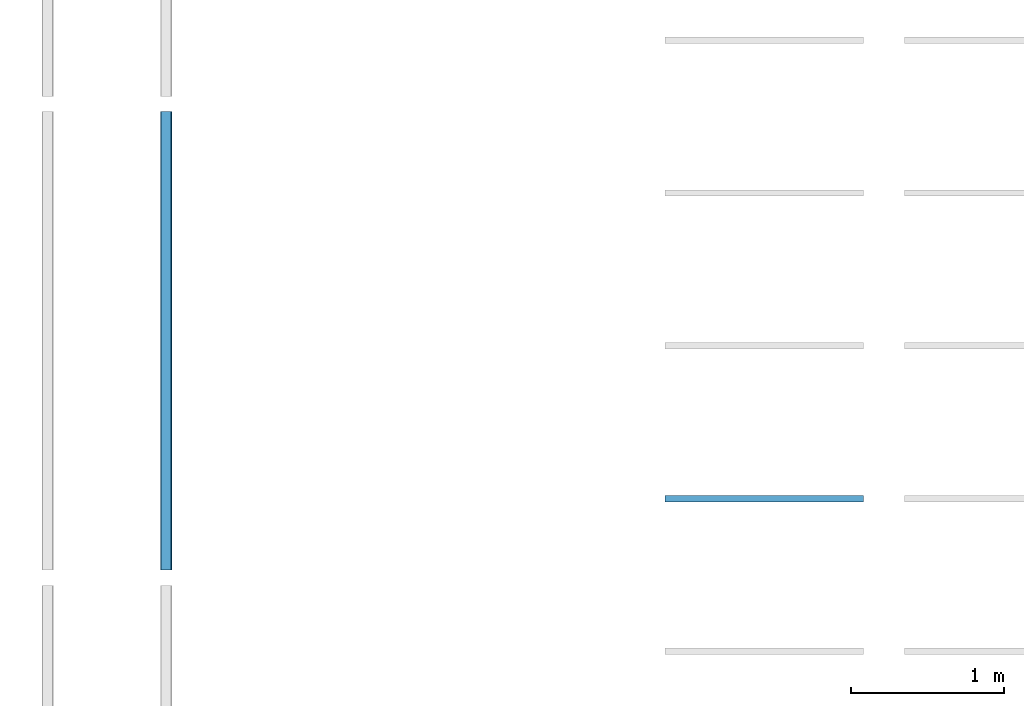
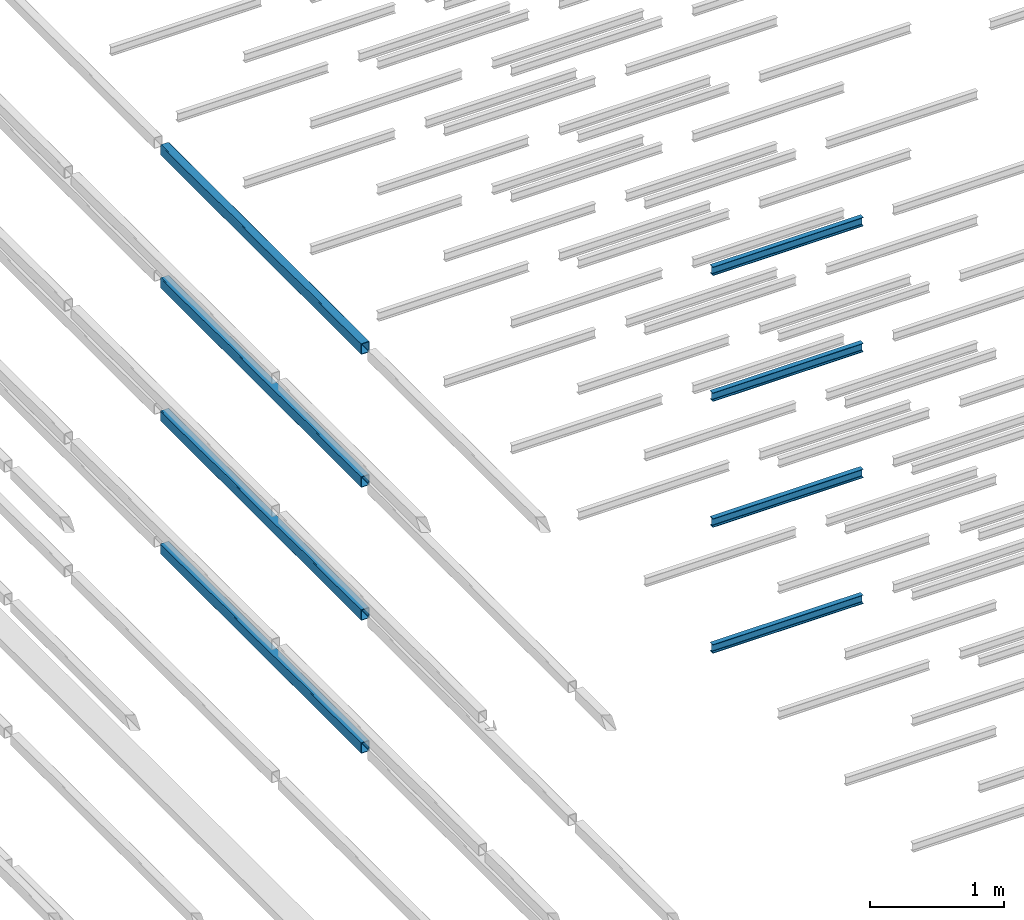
# One storey, part 89 of 290: 8 beams.
"""IFC2X3 building model written with IfcOpenShell, lengths in metres."""

from ifc_helpers import new_model, entity, si_unit, converted_unit, derived_unit, direction, frame, frame_2d, origin, place, context, subcontext, project, spatial, polyline, circle_curve, parameter, trimmed, segment, composite_curve, outline, extrude, material, type_object, element, save


model = new_model("IFC2X3")

# Units and contexts
model_context = context("Model", 3, precision=1e-05, world=origin(), true_north=direction((6.12303176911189e-17, 1.0)))
body_context = subcontext(model_context, "Body", "Model", "MODEL_VIEW")
ifc_project = project(units=[si_unit("LENGTHUNIT", "METRE"), si_unit("AREAUNIT", "SQUARE_METRE"), si_unit("VOLUMEUNIT", "CUBIC_METRE"), converted_unit("PLANEANGLEUNIT", "DEGREE", entity("IfcRatioMeasure", 0.0174532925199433), si_unit("PLANEANGLEUNIT", "RADIAN"), dimensions=[0, 0, 0, 0, 0, 0, 0]), si_unit("MASSUNIT", "GRAM", prefix="KILO"), derived_unit("MASSDENSITYUNIT", [(si_unit("MASSUNIT", "GRAM", prefix="KILO"), 1), (si_unit("LENGTHUNIT", "METRE"), -3)]), derived_unit("MOMENTOFINERTIAUNIT", [(si_unit("LENGTHUNIT", "METRE"), 4)]), si_unit("TIMEUNIT", "SECOND"), si_unit("FREQUENCYUNIT", "HERTZ"), si_unit("THERMODYNAMICTEMPERATUREUNIT", "DEGREE_CELSIUS"), derived_unit("THERMALTRANSMITTANCEUNIT", [(si_unit("MASSUNIT", "GRAM", prefix="KILO"), 1), (si_unit("THERMODYNAMICTEMPERATUREUNIT", "KELVIN"), -1), (si_unit("TIMEUNIT", "SECOND"), -3)]), derived_unit("VOLUMETRICFLOWRATEUNIT", [(si_unit("LENGTHUNIT", "METRE"), 3), (si_unit("TIMEUNIT", "SECOND"), -1)]), si_unit("ELECTRICCURRENTUNIT", "AMPERE"), si_unit("ELECTRICVOLTAGEUNIT", "VOLT"), si_unit("POWERUNIT", "WATT"), si_unit("FORCEUNIT", "NEWTON", prefix="KILO"), si_unit("ILLUMINANCEUNIT", "LUX"), si_unit("LUMINOUSFLUXUNIT", "LUMEN"), si_unit("LUMINOUSINTENSITYUNIT", "CANDELA"), derived_unit("USERDEFINED", [(si_unit("MASSUNIT", "GRAM", prefix="KILO"), -1), (si_unit("LENGTHUNIT", "METRE"), -2), (si_unit("TIMEUNIT", "SECOND"), 3), (si_unit("LUMINOUSFLUXUNIT", "LUMEN"), 1)]), derived_unit("LINEARVELOCITYUNIT", [(si_unit("LENGTHUNIT", "METRE"), 1), (si_unit("TIMEUNIT", "SECOND"), -1)]), si_unit("PRESSUREUNIT", "PASCAL"), derived_unit("USERDEFINED", [(si_unit("LENGTHUNIT", "METRE"), -2), (si_unit("MASSUNIT", "GRAM", prefix="KILO"), 1), (si_unit("TIMEUNIT", "SECOND"), -2)]), derived_unit("LINEARFORCEUNIT", [(si_unit("MASSUNIT", "GRAM", prefix="KILO"), 1), (si_unit("LENGTHUNIT", "METRE"), 1), (si_unit("TIMEUNIT", "SECOND"), -2), (si_unit("LENGTHUNIT", "METRE"), -1)]), derived_unit("PLANARFORCEUNIT", [(si_unit("MASSUNIT", "GRAM", prefix="KILO"), 1), (si_unit("LENGTHUNIT", "METRE"), 1), (si_unit("TIMEUNIT", "SECOND"), -2), (si_unit("LENGTHUNIT", "METRE"), -2)])], contexts=[model_context])

# Site, building, storey
site_placement = place(None, origin())
site = spatial("IfcSite", under=ifc_project, at=site_placement, Name="Default", CompositionType="ELEMENT")
building_placement = place(site_placement, origin())
building = spatial("IfcBuilding", under=site, at=building_placement, CompositionType="ELEMENT")
storey_placement = place(building_placement, frame((0.0, 0.0, 4.0)))
storey = spatial("IfcBuildingStorey", under=building, at=storey_placement, Name="01_OG", CompositionType="ELEMENT", Elevation=4.0)

# Beams
ifc_material_1 = material(Name="Metall - Baustahl S235 blau")
beam_type_1 = type_object("IfcBeamType", Name="RHS Träger (EN 10219-2):RHS 100 x 75 x 5", PredefinedType="NOTDEFINED")
beam_1_placement = place(storey_placement, frame((-175.305111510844, 39.5480889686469, -1.2), z_axis=(0.0, 0.0, 1.0), x_axis=(0.0, 1.0, 0.0)))
element("IfcBeam", 1, at=beam_1_placement, inside=storey, type_object=beam_type_1, material=ifc_material_1, Name="RHS Träger (EN 10219-2):RHS 100 x 75 x 5", ObjectType="RHS Träger (EN 10219-2):RHS 100 x 75 x 5", context=body_context, shape_type="SweptSolid", body=[
    extrude(outline(composite_curve([segment(trimmed(circle_curve(frame_2d((-0.0274999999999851, -0.0400000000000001), x_axis=(1.0, 0.0)), 0.01), [parameter(180.0)], [parameter(270.0)], True, "PARAMETER"), True, "CONTINUOUS"), segment(polyline([(-0.0274999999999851, -0.05), (0.0274999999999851, -0.05)]), True, "CONTINUOUS"), segment(trimmed(circle_curve(frame_2d((0.0274999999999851, -0.0400000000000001), x_axis=(1.0, 0.0)), 0.01), [parameter(270.0)], [parameter(5.08888749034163e-14)], True, "PARAMETER"), True, "CONTINUOUS"), segment(polyline([(0.0375000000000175, -0.0400000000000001), (0.0375000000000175, 0.0400000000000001)]), True, "CONTINUOUS"), segment(trimmed(circle_curve(frame_2d((0.0274999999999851, 0.0400000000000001), x_axis=(1.0, 0.0)), 0.01), [parameter(360.0)], [parameter(89.9999999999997)], True, "PARAMETER"), True, "CONTINUOUS"), segment(polyline([(0.0274999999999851, 0.05), (-0.0274999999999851, 0.05)]), True, "CONTINUOUS"), segment(trimmed(circle_curve(frame_2d((-0.0274999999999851, 0.0400000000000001), x_axis=(1.0, 0.0)), 0.01), [parameter(90.0000000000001)], [parameter(180.0)], True, "PARAMETER"), True, "CONTINUOUS"), segment(polyline([(-0.0374999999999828, 0.0400000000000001), (-0.0374999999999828, -0.0400000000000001)]), True, "CONTINUOUS")], self_intersect=False), holes=[composite_curve([segment(polyline([(0.0274999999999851, -0.0450000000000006), (-0.0274999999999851, -0.0450000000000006)]), True, "CONTINUOUS"), segment(trimmed(circle_curve(frame_2d((-0.0274999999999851, -0.0400000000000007), x_axis=(1.0, 0.0)), 0.005), [parameter(180.0)], [parameter(270.0)], True, "PARAMETER"), False, "CONTINUOUS"), segment(polyline([(-0.0325000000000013, -0.0400000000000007), (-0.0325000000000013, 0.039999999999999)]), True, "CONTINUOUS"), segment(trimmed(circle_curve(frame_2d((-0.0274999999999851, 0.039999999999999), x_axis=(1.0, 0.0)), 0.005), [parameter(90.0000000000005)], [parameter(180.0)], True, "PARAMETER"), False, "CONTINUOUS"), segment(polyline([(-0.0274999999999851, 0.044999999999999), (0.0274999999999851, 0.044999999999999)]), True, "CONTINUOUS"), segment(trimmed(circle_curve(frame_2d((0.0274999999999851, 0.039999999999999), x_axis=(1.0, 0.0)), 0.005), [parameter(0.0)], [parameter(90.0000000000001)], True, "PARAMETER"), False, "CONTINUOUS"), segment(polyline([(0.0325000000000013, 0.039999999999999), (0.0325000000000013, -0.0400000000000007)]), True, "CONTINUOUS"), segment(trimmed(circle_curve(frame_2d((0.0274999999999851, -0.0400000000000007), x_axis=(1.0, 0.0)), 0.005), [parameter(270.0)], [parameter(4.07110999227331e-13)], True, "PARAMETER"), False, "CONTINUOUS")], self_intersect=False)]), frame((9.99999999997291e-05, 0.0375000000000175, -0.0500000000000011), z_axis=(1.0, 0.0, 0.0), x_axis=(0.0, -1.0, 0.0)), (0.0, 0.0, 1.0), 2.99979999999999),
])
beam_2_placement = place(storey_placement, frame((-175.305111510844, 39.5480889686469, 0.0150000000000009), z_axis=(0.0, 0.0, 1.0), x_axis=(0.0, 1.0, 0.0)))
element("IfcBeam", 2, at=beam_2_placement, inside=storey, type_object=beam_type_1, material=ifc_material_1, Name="RHS Träger (EN 10219-2):RHS 100 x 75 x 5", ObjectType="RHS Träger (EN 10219-2):RHS 100 x 75 x 5", context=body_context, shape_type="SweptSolid", body=[
    extrude(outline(composite_curve([segment(trimmed(circle_curve(frame_2d((-0.0274999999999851, -0.0400000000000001), x_axis=(1.0, 0.0)), 0.01), [parameter(180.0)], [parameter(270.0)], True, "PARAMETER"), True, "CONTINUOUS"), segment(polyline([(-0.0274999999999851, -0.05), (0.0274999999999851, -0.05)]), True, "CONTINUOUS"), segment(trimmed(circle_curve(frame_2d((0.0274999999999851, -0.0400000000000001), x_axis=(1.0, 0.0)), 0.01), [parameter(270.0)], [parameter(5.08888749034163e-14)], True, "PARAMETER"), True, "CONTINUOUS"), segment(polyline([(0.0375000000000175, -0.0400000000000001), (0.0375000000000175, 0.0400000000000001)]), True, "CONTINUOUS"), segment(trimmed(circle_curve(frame_2d((0.0274999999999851, 0.0400000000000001), x_axis=(1.0, 0.0)), 0.01), [parameter(360.0)], [parameter(89.9999999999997)], True, "PARAMETER"), True, "CONTINUOUS"), segment(polyline([(0.0274999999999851, 0.05), (-0.0274999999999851, 0.05)]), True, "CONTINUOUS"), segment(trimmed(circle_curve(frame_2d((-0.0274999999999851, 0.0400000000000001), x_axis=(1.0, 0.0)), 0.01), [parameter(90.0000000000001)], [parameter(180.0)], True, "PARAMETER"), True, "CONTINUOUS"), segment(polyline([(-0.0374999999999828, 0.0400000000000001), (-0.0374999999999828, -0.0400000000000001)]), True, "CONTINUOUS")], self_intersect=False), holes=[composite_curve([segment(polyline([(0.0274999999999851, -0.0450000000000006), (-0.0274999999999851, -0.0450000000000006)]), True, "CONTINUOUS"), segment(trimmed(circle_curve(frame_2d((-0.0274999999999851, -0.0400000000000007), x_axis=(1.0, 0.0)), 0.005), [parameter(180.0)], [parameter(270.0)], True, "PARAMETER"), False, "CONTINUOUS"), segment(polyline([(-0.0325000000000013, -0.0400000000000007), (-0.0325000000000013, 0.039999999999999)]), True, "CONTINUOUS"), segment(trimmed(circle_curve(frame_2d((-0.0274999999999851, 0.039999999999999), x_axis=(1.0, 0.0)), 0.005), [parameter(90.0000000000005)], [parameter(180.0)], True, "PARAMETER"), False, "CONTINUOUS"), segment(polyline([(-0.0274999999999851, 0.044999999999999), (0.0274999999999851, 0.044999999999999)]), True, "CONTINUOUS"), segment(trimmed(circle_curve(frame_2d((0.0274999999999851, 0.039999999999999), x_axis=(1.0, 0.0)), 0.005), [parameter(0.0)], [parameter(90.0000000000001)], True, "PARAMETER"), False, "CONTINUOUS"), segment(polyline([(0.0325000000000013, 0.039999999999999), (0.0325000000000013, -0.0400000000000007)]), True, "CONTINUOUS"), segment(trimmed(circle_curve(frame_2d((0.0274999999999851, -0.0400000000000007), x_axis=(1.0, 0.0)), 0.005), [parameter(270.0)], [parameter(4.07110999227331e-13)], True, "PARAMETER"), False, "CONTINUOUS")], self_intersect=False)]), frame((9.99999999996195e-05, 0.0375000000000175, -0.0500000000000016), z_axis=(1.0, 0.0, 0.0), x_axis=(0.0, -1.0, 0.0)), (0.0, 0.0, 1.0), 2.99979999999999),
])
beam_3_placement = place(storey_placement, frame((-175.305111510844, 39.5480889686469, 1.23), z_axis=(0.0, 0.0, 1.0), x_axis=(0.0, 1.0, 0.0)))
element("IfcBeam", 3, at=beam_3_placement, inside=storey, type_object=beam_type_1, material=ifc_material_1, Name="RHS Träger (EN 10219-2):RHS 100 x 75 x 5", ObjectType="RHS Träger (EN 10219-2):RHS 100 x 75 x 5", context=body_context, shape_type="SweptSolid", body=[
    extrude(outline(composite_curve([segment(trimmed(circle_curve(frame_2d((-0.0274999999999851, -0.0399999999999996), x_axis=(1.0, 0.0)), 0.01), [parameter(180.0)], [parameter(270.0)], True, "PARAMETER"), True, "CONTINUOUS"), segment(polyline([(-0.0274999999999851, -0.0499999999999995), (0.0274999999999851, -0.0499999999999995)]), True, "CONTINUOUS"), segment(trimmed(circle_curve(frame_2d((0.0274999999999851, -0.0399999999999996), x_axis=(1.0, 0.0)), 0.01), [parameter(270.0)], [parameter(5.08888749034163e-14)], True, "PARAMETER"), True, "CONTINUOUS"), segment(polyline([(0.0375000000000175, -0.0399999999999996), (0.0375000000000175, 0.0399999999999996)]), True, "CONTINUOUS"), segment(trimmed(circle_curve(frame_2d((0.0274999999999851, 0.0399999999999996), x_axis=(1.0, 0.0)), 0.01), [parameter(360.0)], [parameter(89.9999999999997)], True, "PARAMETER"), True, "CONTINUOUS"), segment(polyline([(0.0274999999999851, 0.0500000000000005), (-0.0274999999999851, 0.0500000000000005)]), True, "CONTINUOUS"), segment(trimmed(circle_curve(frame_2d((-0.0274999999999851, 0.0399999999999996), x_axis=(1.0, 0.0)), 0.01), [parameter(90.0000000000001)], [parameter(180.0)], True, "PARAMETER"), True, "CONTINUOUS"), segment(polyline([(-0.0374999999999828, 0.0399999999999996), (-0.0374999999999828, -0.0399999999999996)]), True, "CONTINUOUS")], self_intersect=False), holes=[composite_curve([segment(polyline([(0.0274999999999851, -0.0450000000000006), (-0.0274999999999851, -0.0450000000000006)]), True, "CONTINUOUS"), segment(trimmed(circle_curve(frame_2d((-0.0274999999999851, -0.0400000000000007), x_axis=(1.0, 0.0)), 0.005), [parameter(180.0)], [parameter(270.0)], True, "PARAMETER"), False, "CONTINUOUS"), segment(polyline([(-0.0325000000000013, -0.0400000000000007), (-0.0325000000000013, 0.0399999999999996)]), True, "CONTINUOUS"), segment(trimmed(circle_curve(frame_2d((-0.0274999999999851, 0.0399999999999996), x_axis=(1.0, 0.0)), 0.005), [parameter(90.0000000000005)], [parameter(180.0)], True, "PARAMETER"), False, "CONTINUOUS"), segment(polyline([(-0.0274999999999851, 0.0449999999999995), (0.0274999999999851, 0.0449999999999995)]), True, "CONTINUOUS"), segment(trimmed(circle_curve(frame_2d((0.0274999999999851, 0.0399999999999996), x_axis=(1.0, 0.0)), 0.005), [parameter(0.0)], [parameter(90.0000000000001)], True, "PARAMETER"), False, "CONTINUOUS"), segment(polyline([(0.0325000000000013, 0.0399999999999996), (0.0325000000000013, -0.0400000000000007)]), True, "CONTINUOUS"), segment(trimmed(circle_curve(frame_2d((0.0274999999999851, -0.0400000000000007), x_axis=(1.0, 0.0)), 0.005), [parameter(270.0)], [parameter(4.07110999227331e-13)], True, "PARAMETER"), False, "CONTINUOUS")], self_intersect=False)]), frame((9.99999999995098e-05, 0.0375000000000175, -0.0500000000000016), z_axis=(1.0, 0.0, 0.0), x_axis=(0.0, -1.0, 0.0)), (0.0, 0.0, 1.0), 2.99979999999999),
])
beam_4_placement = place(storey_placement, frame((-175.305111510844, 39.5480889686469, 2.445), z_axis=(0.0, 0.0, 1.0), x_axis=(0.0, 1.0, 0.0)))
element("IfcBeam", 4, at=beam_4_placement, inside=storey, type_object=beam_type_1, material=ifc_material_1, Name="RHS Träger (EN 10219-2):RHS 100 x 75 x 5", ObjectType="RHS Träger (EN 10219-2):RHS 100 x 75 x 5", context=body_context, shape_type="SweptSolid", body=[
    extrude(outline(composite_curve([segment(trimmed(circle_curve(frame_2d((-0.0274999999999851, -0.0399999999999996), x_axis=(1.0, 0.0)), 0.01), [parameter(180.0)], [parameter(270.0)], True, "PARAMETER"), True, "CONTINUOUS"), segment(polyline([(-0.0274999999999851, -0.0499999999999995), (0.0274999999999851, -0.0499999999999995)]), True, "CONTINUOUS"), segment(trimmed(circle_curve(frame_2d((0.0274999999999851, -0.0399999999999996), x_axis=(1.0, 0.0)), 0.01), [parameter(270.0)], [parameter(5.08888749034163e-14)], True, "PARAMETER"), True, "CONTINUOUS"), segment(polyline([(0.0375000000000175, -0.0399999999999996), (0.0375000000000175, 0.0399999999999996)]), True, "CONTINUOUS"), segment(trimmed(circle_curve(frame_2d((0.0274999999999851, 0.0399999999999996), x_axis=(1.0, 0.0)), 0.01), [parameter(360.0)], [parameter(89.9999999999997)], True, "PARAMETER"), True, "CONTINUOUS"), segment(polyline([(0.0274999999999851, 0.0500000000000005), (-0.0274999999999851, 0.0500000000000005)]), True, "CONTINUOUS"), segment(trimmed(circle_curve(frame_2d((-0.0274999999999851, 0.0399999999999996), x_axis=(1.0, 0.0)), 0.01), [parameter(90.0000000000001)], [parameter(180.0)], True, "PARAMETER"), True, "CONTINUOUS"), segment(polyline([(-0.0374999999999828, 0.0399999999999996), (-0.0374999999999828, -0.0399999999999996)]), True, "CONTINUOUS")], self_intersect=False), holes=[composite_curve([segment(polyline([(0.0274999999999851, -0.0450000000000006), (-0.0274999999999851, -0.0450000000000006)]), True, "CONTINUOUS"), segment(trimmed(circle_curve(frame_2d((-0.0274999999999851, -0.0400000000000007), x_axis=(1.0, 0.0)), 0.005), [parameter(180.0)], [parameter(270.0)], True, "PARAMETER"), False, "CONTINUOUS"), segment(polyline([(-0.0325000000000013, -0.0400000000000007), (-0.0325000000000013, 0.0399999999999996)]), True, "CONTINUOUS"), segment(trimmed(circle_curve(frame_2d((-0.0274999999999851, 0.0399999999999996), x_axis=(1.0, 0.0)), 0.005), [parameter(90.0000000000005)], [parameter(180.0)], True, "PARAMETER"), False, "CONTINUOUS"), segment(polyline([(-0.0274999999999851, 0.0449999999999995), (0.0274999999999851, 0.0449999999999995)]), True, "CONTINUOUS"), segment(trimmed(circle_curve(frame_2d((0.0274999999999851, 0.0399999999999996), x_axis=(1.0, 0.0)), 0.005), [parameter(0.0)], [parameter(90.0000000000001)], True, "PARAMETER"), False, "CONTINUOUS"), segment(polyline([(0.0325000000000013, 0.0399999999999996), (0.0325000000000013, -0.0400000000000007)]), True, "CONTINUOUS"), segment(trimmed(circle_curve(frame_2d((0.0274999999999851, -0.0400000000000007), x_axis=(1.0, 0.0)), 0.005), [parameter(270.0)], [parameter(4.07110999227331e-13)], True, "PARAMETER"), False, "CONTINUOUS")], self_intersect=False)]), frame((9.99999999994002e-05, 0.0375000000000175, -0.0500000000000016), z_axis=(1.0, 0.0, 0.0), x_axis=(0.0, -1.0, 0.0)), (0.0, 0.0, 1.0), 2.99979999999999),
])
ifc_material_2 = material(Name="Metall - Baustahl S235")
beam_type_2 = type_object("IfcBeamType", Name="IPN Träger:IPN 80", PredefinedType="NOTDEFINED")
beam_5_placement = place(storey_placement, frame((-170.780111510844, 40.036588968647, -1.73), z_axis=(0.0, 0.0, 1.0), x_axis=(-1.0, 0.0, 0.0)))
element("IfcBeam", 5, at=beam_5_placement, inside=storey, type_object=beam_type_2, material=ifc_material_2, Name="IPN Träger:IPN 80", ObjectType="IPN Träger:IPN 80", context=body_context, shape_type="SweptSolid", body=[
    extrude(outline(composite_curve([segment(polyline([(0.0375704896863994, -0.0210000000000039), (0.0399999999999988, -0.0210000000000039)]), True, "CONTINUOUS"), segment(polyline([(0.0399999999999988, -0.0210000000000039), (0.0399999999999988, 0.0209999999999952)]), True, "CONTINUOUS"), segment(polyline([(0.0399999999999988, 0.0209999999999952), (0.0375704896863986, 0.0209999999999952)]), True, "CONTINUOUS"), segment(trimmed(circle_curve(frame_2d((0.0375704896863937, 0.0187000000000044), x_axis=(0.0, 1.0)), 0.0022999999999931), [parameter(0.0)], [parameter(82.030000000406)], True, "PARAMETER"), True, "CONTINUOUS"), segment(polyline([(0.0352927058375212, 0.019018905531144), (0.0333732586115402, 0.00530924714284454)]), True, "CONTINUOUS"), segment(trimmed(circle_curve(frame_2d((0.0295109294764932, 0.00584999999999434), x_axis=(0.99034080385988, -0.138654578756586)), 0.0038999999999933), [parameter(277.96999999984)], [parameter(0.0)], True, "PARAMETER"), False, "CONTINUOUS"), segment(polyline([(0.0295109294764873, 0.00194999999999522), (-0.0295109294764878, 0.00194999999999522)]), True, "CONTINUOUS"), segment(trimmed(circle_curve(frame_2d((-0.0295109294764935, 0.00584999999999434), x_axis=(0.0, -1.0)), 0.0038999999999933), [parameter(277.96999999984)], [parameter(0.0)], True, "PARAMETER"), False, "CONTINUOUS"), segment(polyline([(-0.033373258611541, 0.00530924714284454), (-0.0352927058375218, 0.019018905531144)]), True, "CONTINUOUS"), segment(trimmed(circle_curve(frame_2d((-0.0375704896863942, 0.0187000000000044), x_axis=(0.990340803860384, 0.138654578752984)), 0.00229999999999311), [parameter(0.0)], [parameter(82.030000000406)], True, "PARAMETER"), True, "CONTINUOUS"), segment(polyline([(-0.0375704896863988, 0.0209999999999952), (-0.0400000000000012, 0.0209999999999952)]), True, "CONTINUOUS"), segment(polyline([(-0.0400000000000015, 0.0209999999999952), (-0.0400000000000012, -0.0210000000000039)]), True, "CONTINUOUS"), segment(polyline([(-0.0400000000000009, -0.0210000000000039), (-0.0375704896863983, -0.0210000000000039)]), True, "CONTINUOUS"), segment(trimmed(circle_curve(frame_2d((-0.0375704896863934, -0.0187000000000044), x_axis=(0.0, -1.0)), 0.0022999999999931), [parameter(0.0)], [parameter(82.030000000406)], True, "PARAMETER"), True, "CONTINUOUS"), segment(polyline([(-0.0352927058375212, -0.019018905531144), (-0.0333732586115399, -0.00530924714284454)]), True, "CONTINUOUS"), segment(trimmed(circle_curve(frame_2d((-0.0295109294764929, -0.00584999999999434), x_axis=(-0.99034080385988, 0.138654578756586)), 0.0038999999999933), [parameter(277.96999999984)], [parameter(0.0)], True, "PARAMETER"), False, "CONTINUOUS"), segment(polyline([(-0.0295109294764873, -0.00195000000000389), (0.0295109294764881, -0.00195000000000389)]), True, "CONTINUOUS"), segment(trimmed(circle_curve(frame_2d((0.029510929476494, -0.00584999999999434), x_axis=(0.0, 1.0)), 0.00389999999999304), [parameter(277.969999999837)], [parameter(0.0)], True, "PARAMETER"), False, "CONTINUOUS"), segment(polyline([(0.033373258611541, -0.00530924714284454), (0.0352927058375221, -0.019018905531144)]), True, "CONTINUOUS"), segment(trimmed(circle_curve(frame_2d((0.0375704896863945, -0.0187000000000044), x_axis=(-0.990340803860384, -0.138654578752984)), 0.0022999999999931), [parameter(0.0)], [parameter(82.030000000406)], True, "PARAMETER"), True, "CONTINUOUS")], self_intersect=False)), frame((0.00010000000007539, 0.0209999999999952, -0.0400000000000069), z_axis=(1.0, 0.0, 0.0), x_axis=(0.0, 0.0, -1.0)), (0.0, 0.0, 1.0), 1.29990000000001),
])
beam_6_placement = place(storey_placement, frame((-170.780111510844, 40.036588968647, -0.579999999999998), z_axis=(0.0, 0.0, 1.0), x_axis=(-1.0, 0.0, 0.0)))
element("IfcBeam", 6, at=beam_6_placement, inside=storey, type_object=beam_type_2, material=ifc_material_2, Name="IPN Träger:IPN 80", ObjectType="IPN Träger:IPN 80", context=body_context, shape_type="SweptSolid", body=[
    extrude(outline(composite_curve([segment(polyline([(0.0375704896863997, -0.0210000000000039), (0.039999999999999, -0.0210000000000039)]), True, "CONTINUOUS"), segment(polyline([(0.039999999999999, -0.0210000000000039), (0.039999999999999, 0.0209999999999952)]), True, "CONTINUOUS"), segment(polyline([(0.039999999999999, 0.0209999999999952), (0.0375704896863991, 0.0209999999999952)]), True, "CONTINUOUS"), segment(trimmed(circle_curve(frame_2d((0.0375704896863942, 0.0187000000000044), x_axis=(0.0, 1.0)), 0.00229999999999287), [parameter(0.0)], [parameter(82.0300000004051)], True, "PARAMETER"), True, "CONTINUOUS"), segment(polyline([(0.0352927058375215, 0.019018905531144), (0.0333732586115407, 0.00530924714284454)]), True, "CONTINUOUS"), segment(trimmed(circle_curve(frame_2d((0.029510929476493, 0.00584999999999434), x_axis=(0.99034080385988, -0.138654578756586)), 0.00389999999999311), [parameter(277.969999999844)], [parameter(0.0)], True, "PARAMETER"), False, "CONTINUOUS"), segment(polyline([(0.0295109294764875, 0.00194999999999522), (-0.0295109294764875, 0.00194999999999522)]), True, "CONTINUOUS"), segment(trimmed(circle_curve(frame_2d((-0.0295109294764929, 0.00584999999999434), x_axis=(0.0, -1.0)), 0.00389999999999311), [parameter(277.969999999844)], [parameter(0.0)], True, "PARAMETER"), False, "CONTINUOUS"), segment(polyline([(-0.0333732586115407, 0.00530924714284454), (-0.0352927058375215, 0.019018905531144)]), True, "CONTINUOUS"), segment(trimmed(circle_curve(frame_2d((-0.0375704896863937, 0.0187000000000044), x_axis=(0.990340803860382, 0.138654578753)), 0.00229999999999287), [parameter(0.0)], [parameter(82.0300000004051)], True, "PARAMETER"), True, "CONTINUOUS"), segment(polyline([(-0.0375704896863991, 0.0209999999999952), (-0.0400000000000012, 0.0209999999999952)]), True, "CONTINUOUS"), segment(polyline([(-0.0400000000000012, 0.0209999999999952), (-0.0400000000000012, -0.0210000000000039)]), True, "CONTINUOUS"), segment(polyline([(-0.0400000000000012, -0.0210000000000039), (-0.037570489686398, -0.0210000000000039)]), True, "CONTINUOUS"), segment(trimmed(circle_curve(frame_2d((-0.0375704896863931, -0.0187000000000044), x_axis=(0.0, -1.0)), 0.00229999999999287), [parameter(0.0)], [parameter(82.0300000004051)], True, "PARAMETER"), True, "CONTINUOUS"), segment(polyline([(-0.035292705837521, -0.019018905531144), (-0.0333732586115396, -0.00530924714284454)]), True, "CONTINUOUS"), segment(trimmed(circle_curve(frame_2d((-0.0295109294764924, -0.00584999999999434), x_axis=(-0.99034080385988, 0.138654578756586)), 0.00389999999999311), [parameter(277.969999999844)], [parameter(0.0)], True, "PARAMETER"), False, "CONTINUOUS"), segment(polyline([(-0.029510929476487, -0.00195000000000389), (0.0295109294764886, -0.00195000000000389)]), True, "CONTINUOUS"), segment(trimmed(circle_curve(frame_2d((0.029510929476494, -0.00584999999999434), x_axis=(0.0, 1.0)), 0.00389999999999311), [parameter(277.969999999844)], [parameter(0.0)], True, "PARAMETER"), False, "CONTINUOUS"), segment(polyline([(0.0333732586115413, -0.00530924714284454), (0.0352927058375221, -0.019018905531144)]), True, "CONTINUOUS"), segment(trimmed(circle_curve(frame_2d((0.0375704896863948, -0.0187000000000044), x_axis=(-0.990340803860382, -0.138654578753)), 0.00229999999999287), [parameter(0.0)], [parameter(82.0300000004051)], True, "PARAMETER"), True, "CONTINUOUS")], self_intersect=False)), frame((0.000100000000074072, 0.0209999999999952, -0.0400000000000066), z_axis=(1.0, 0.0, 0.0), x_axis=(0.0, 0.0, -1.0)), (0.0, 0.0, 1.0), 1.29990000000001),
])
beam_7_placement = place(storey_placement, frame((-170.780111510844, 40.036588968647, 0.570000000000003), z_axis=(0.0, 0.0, 1.0), x_axis=(-1.0, 0.0, 0.0)))
element("IfcBeam", 7, at=beam_7_placement, inside=storey, type_object=beam_type_2, material=ifc_material_2, Name="IPN Träger:IPN 80", ObjectType="IPN Träger:IPN 80", context=body_context, shape_type="SweptSolid", body=[
    extrude(outline(composite_curve([segment(polyline([(0.0375704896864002, -0.0210000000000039), (0.0399999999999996, -0.0210000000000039)]), True, "CONTINUOUS"), segment(polyline([(0.0399999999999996, -0.0210000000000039), (0.0399999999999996, 0.0209999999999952)]), True, "CONTINUOUS"), segment(polyline([(0.0399999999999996, 0.0209999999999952), (0.0375704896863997, 0.0209999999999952)]), True, "CONTINUOUS"), segment(trimmed(circle_curve(frame_2d((0.0375704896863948, 0.0187000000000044), x_axis=(0.0, 1.0)), 0.00229999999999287), [parameter(0.0)], [parameter(82.0300000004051)], True, "PARAMETER"), True, "CONTINUOUS"), segment(polyline([(0.0352927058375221, 0.019018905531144), (0.0333732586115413, 0.00530924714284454)]), True, "CONTINUOUS"), segment(trimmed(circle_curve(frame_2d((0.0295109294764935, 0.00584999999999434), x_axis=(0.99034080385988, -0.138654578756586)), 0.00389999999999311), [parameter(277.969999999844)], [parameter(0.0)], True, "PARAMETER"), False, "CONTINUOUS"), segment(polyline([(0.0295109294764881, 0.00194999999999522), (-0.029510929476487, 0.00194999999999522)]), True, "CONTINUOUS"), segment(trimmed(circle_curve(frame_2d((-0.0295109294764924, 0.00584999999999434), x_axis=(0.0, -1.0)), 0.00389999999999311), [parameter(277.969999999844)], [parameter(0.0)], True, "PARAMETER"), False, "CONTINUOUS"), segment(polyline([(-0.0333732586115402, 0.00530924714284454), (-0.035292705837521, 0.019018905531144)]), True, "CONTINUOUS"), segment(trimmed(circle_curve(frame_2d((-0.0375704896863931, 0.0187000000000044), x_axis=(0.990340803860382, 0.138654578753)), 0.00229999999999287), [parameter(0.0)], [parameter(82.0300000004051)], True, "PARAMETER"), True, "CONTINUOUS"), segment(polyline([(-0.0375704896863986, 0.0209999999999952), (-0.0400000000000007, 0.0209999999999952)]), True, "CONTINUOUS"), segment(polyline([(-0.0400000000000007, 0.0209999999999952), (-0.0400000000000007, -0.0210000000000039)]), True, "CONTINUOUS"), segment(polyline([(-0.0400000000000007, -0.0210000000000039), (-0.0375704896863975, -0.0210000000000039)]), True, "CONTINUOUS"), segment(trimmed(circle_curve(frame_2d((-0.0375704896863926, -0.0187000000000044), x_axis=(0.0, -1.0)), 0.00229999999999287), [parameter(0.0)], [parameter(82.0300000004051)], True, "PARAMETER"), True, "CONTINUOUS"), segment(polyline([(-0.0352927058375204, -0.019018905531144), (-0.0333732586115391, -0.00530924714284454)]), True, "CONTINUOUS"), segment(trimmed(circle_curve(frame_2d((-0.0295109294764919, -0.00584999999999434), x_axis=(-0.99034080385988, 0.138654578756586)), 0.00389999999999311), [parameter(277.969999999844)], [parameter(0.0)], True, "PARAMETER"), False, "CONTINUOUS"), segment(polyline([(-0.0295109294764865, -0.00195000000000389), (0.0295109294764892, -0.00195000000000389)]), True, "CONTINUOUS"), segment(trimmed(circle_curve(frame_2d((0.0295109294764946, -0.00584999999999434), x_axis=(0.0, 1.0)), 0.00389999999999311), [parameter(277.969999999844)], [parameter(0.0)], True, "PARAMETER"), False, "CONTINUOUS"), segment(polyline([(0.0333732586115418, -0.00530924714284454), (0.0352927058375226, -0.019018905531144)]), True, "CONTINUOUS"), segment(trimmed(circle_curve(frame_2d((0.0375704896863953, -0.0187000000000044), x_axis=(-0.990340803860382, -0.138654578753)), 0.00229999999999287), [parameter(0.0)], [parameter(82.0300000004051)], True, "PARAMETER"), True, "CONTINUOUS")], self_intersect=False)), frame((0.000100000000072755, 0.0209999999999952, -0.0400000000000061), z_axis=(1.0, 0.0, 0.0), x_axis=(0.0, 0.0, -1.0)), (0.0, 0.0, 1.0), 1.29990000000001),
])
beam_8_placement = place(storey_placement, frame((-170.780111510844, 40.036588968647, 1.72), z_axis=(0.0, 0.0, 1.0), x_axis=(-1.0, 0.0, 0.0)))
element("IfcBeam", 8, at=beam_8_placement, inside=storey, type_object=beam_type_2, material=ifc_material_2, Name="IPN Träger:IPN 80", ObjectType="IPN Träger:IPN 80", context=body_context, shape_type="SweptSolid", body=[
    extrude(outline(composite_curve([segment(polyline([(0.0375704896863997, -0.0210000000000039), (0.0399999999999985, -0.0210000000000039)]), True, "CONTINUOUS"), segment(polyline([(0.0399999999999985, -0.0210000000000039), (0.0399999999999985, 0.0209999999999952)]), True, "CONTINUOUS"), segment(polyline([(0.0399999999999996, 0.0209999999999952), (0.0375704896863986, 0.0209999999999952)]), True, "CONTINUOUS"), segment(trimmed(circle_curve(frame_2d((0.0375704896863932, 0.0187000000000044), x_axis=(0.0, 1.0)), 0.0022999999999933), [parameter(0.0)], [parameter(82.0300000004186)], True, "PARAMETER"), True, "CONTINUOUS"), segment(polyline([(0.0352927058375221, 0.019018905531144), (0.0333732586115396, 0.00530924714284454)]), True, "CONTINUOUS"), segment(trimmed(circle_curve(frame_2d((0.029510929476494, 0.00584999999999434), x_axis=(0.990340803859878, -0.138654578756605)), 0.00389999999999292), [parameter(277.969999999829)], [parameter(0.0)], True, "PARAMETER"), False, "CONTINUOUS"), segment(polyline([(0.0295109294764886, 0.00194999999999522), (-0.0295109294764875, 0.00194999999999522)]), True, "CONTINUOUS"), segment(trimmed(circle_curve(frame_2d((-0.029510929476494, 0.00584999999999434), x_axis=(0.0, -1.0)), 0.00389999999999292), [parameter(277.969999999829)], [parameter(0.0)], True, "PARAMETER"), False, "CONTINUOUS"), segment(polyline([(-0.0333732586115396, 0.00530924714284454), (-0.0352927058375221, 0.019018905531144)]), True, "CONTINUOUS"), segment(trimmed(circle_curve(frame_2d((-0.0375704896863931, 0.0187000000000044), x_axis=(0.990340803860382, 0.138654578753)), 0.0022999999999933), [parameter(0.0)], [parameter(82.0300000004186)], True, "PARAMETER"), True, "CONTINUOUS"), segment(polyline([(-0.0375704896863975, 0.0209999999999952), (-0.0400000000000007, 0.0209999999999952)]), True, "CONTINUOUS"), segment(polyline([(-0.0400000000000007, 0.0209999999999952), (-0.0400000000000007, -0.0210000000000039)]), True, "CONTINUOUS"), segment(polyline([(-0.0400000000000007, -0.0210000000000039), (-0.0375704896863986, -0.0210000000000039)]), True, "CONTINUOUS"), segment(trimmed(circle_curve(frame_2d((-0.0375704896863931, -0.0187000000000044), x_axis=(0.0, -1.0)), 0.0022999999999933), [parameter(0.0)], [parameter(82.0300000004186)], True, "PARAMETER"), True, "CONTINUOUS"), segment(polyline([(-0.035292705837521, -0.019018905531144), (-0.0333732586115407, -0.00530924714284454)]), True, "CONTINUOUS"), segment(trimmed(circle_curve(frame_2d((-0.029510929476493, -0.00584999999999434), x_axis=(-0.990340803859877, 0.138654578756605)), 0.00389999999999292), [parameter(277.969999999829)], [parameter(0.0)], True, "PARAMETER"), False, "CONTINUOUS"), segment(polyline([(-0.0295109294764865, -0.00195000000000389), (0.0295109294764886, -0.00195000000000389)]), True, "CONTINUOUS"), segment(trimmed(circle_curve(frame_2d((0.0295109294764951, -0.00584999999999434), x_axis=(0.0, 1.0)), 0.00389999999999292), [parameter(277.969999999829)], [parameter(0.0)], True, "PARAMETER"), False, "CONTINUOUS"), segment(polyline([(0.0333732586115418, -0.00530924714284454), (0.0352927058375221, -0.019018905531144)]), True, "CONTINUOUS"), segment(trimmed(circle_curve(frame_2d((0.0375704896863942, -0.0187000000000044), x_axis=(-0.990340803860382, -0.138654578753)), 0.0022999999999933), [parameter(0.0)], [parameter(82.0300000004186)], True, "PARAMETER"), True, "CONTINUOUS")], self_intersect=False)), frame((0.000100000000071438, 0.0209999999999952, -0.040000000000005), z_axis=(1.0, 0.0, 0.0), x_axis=(0.0, 0.0, -1.0)), (0.0, 0.0, 1.0), 1.29990000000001),
])

save(model, "model.ifc")
